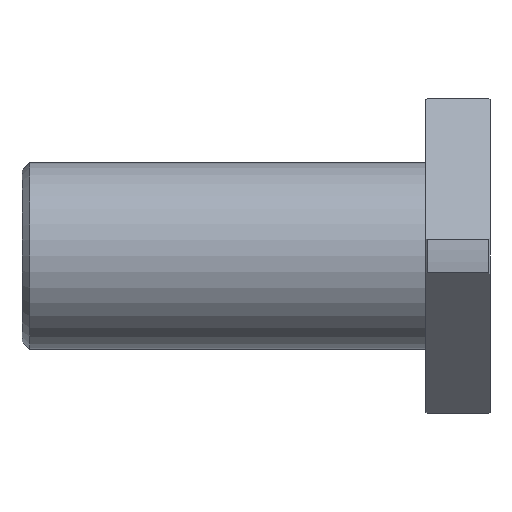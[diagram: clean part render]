
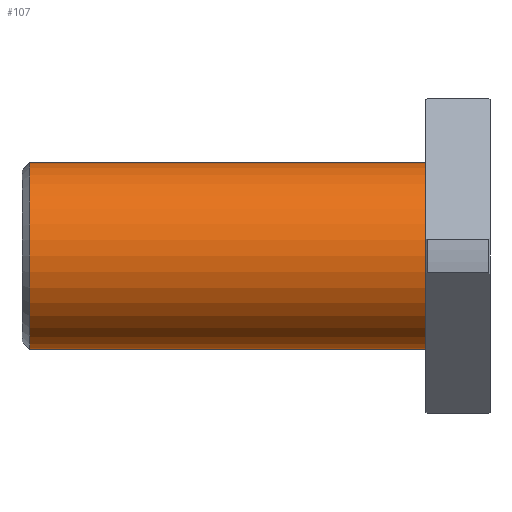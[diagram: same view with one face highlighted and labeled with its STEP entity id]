
A CAD part, front view. The second image highlights one B-rep face of the part: STEP entity #107.
In plain terms, the highlighted cylindrical face has radius 16 mm (diameter 32 mm), a full revolution.
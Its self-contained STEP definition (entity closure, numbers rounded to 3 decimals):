
#107=ADVANCED_FACE('',(#199,#200),#201,.T.);
#199=FACE_OUTER_BOUND('',#293,.T.);
#200=FACE_OUTER_BOUND('',#294,.T.);
#201=CYLINDRICAL_SURFACE('',#295,16.0);
#293=EDGE_LOOP('',(#522));
#294=EDGE_LOOP('',(#523));
#295=AXIS2_PLACEMENT_3D('',#524,#525,#526);
#522=ORIENTED_EDGE('',*,*,#541,.F.);
#523=ORIENTED_EDGE('',*,*,#602,.F.);
#524=CARTESIAN_POINT('',(-11.0,0.0,0.0));
#525=DIRECTION('',(1.0,-0.0,-0.0));
#526=DIRECTION('',(0.0,0.0,1.0));
#541=EDGE_CURVE('',#613,#613,#614,.T.);
#602=EDGE_CURVE('',#719,#719,#720,.T.);
#613=VERTEX_POINT('',#735);
#614=CIRCLE('',#736,16.0);
#719=VERTEX_POINT('',#905);
#720=CIRCLE('',#906,16.0);
#735=CARTESIAN_POINT('',(-11.0,0.0,-16.0));
#736=AXIS2_PLACEMENT_3D('',#924,#925,#926);
#905=CARTESIAN_POINT('',(-78.7,0.0,16.0));
#906=AXIS2_PLACEMENT_3D('',#1027,#1028,#1029);
#924=CARTESIAN_POINT('',(-11.0,0.0,0.0));
#925=DIRECTION('',(1.0,0.0,0.0));
#926=DIRECTION('',(0.0,0.0,-1.0));
#1027=CARTESIAN_POINT('',(-78.7,0.0,0.0));
#1028=DIRECTION('',(-1.0,0.0,0.0));
#1029=DIRECTION('',(0.0,0.0,1.0));
